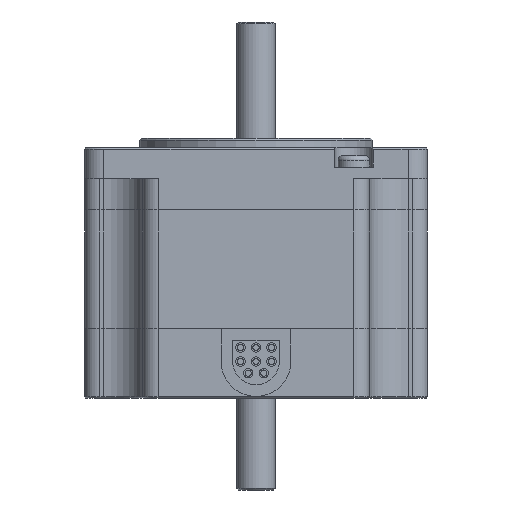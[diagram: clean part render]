
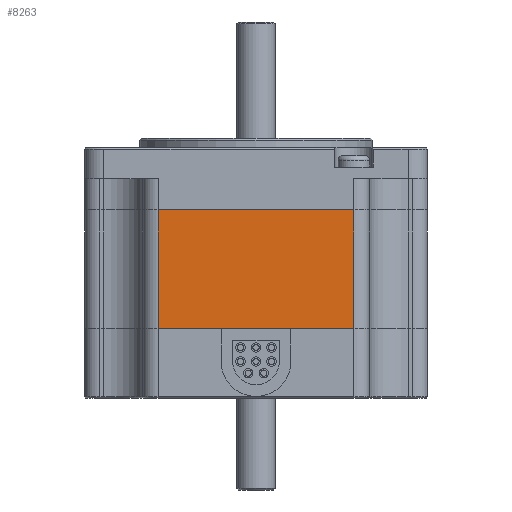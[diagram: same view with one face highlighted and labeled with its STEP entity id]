
A CAD part, front view. The second image highlights one B-rep face of the part: STEP entity #8263.
In plain terms, the highlighted planar face has unit normal (0, -1, 0).
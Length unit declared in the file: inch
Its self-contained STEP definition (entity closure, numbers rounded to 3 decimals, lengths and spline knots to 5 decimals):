
#208 = EDGE_CURVE ( 'NONE', #312, #319, #1610, .T. ) ;
#312 = VERTEX_POINT ( 'NONE', #2262 ) ;
#319 = VERTEX_POINT ( 'NONE', #2307 ) ;
#1609 = CARTESIAN_POINT ( 'NONE',  ( 0.63, -1.104, -0.4 ) ) ;
#1610 = LINE ( 'NONE', #1609, #2043 ) ;
#2027 = DIRECTION ( 'NONE',  ( -1., 0., 0. ) ) ;
#2043 = VECTOR ( 'NONE', #2027, 39.37008 ) ;
#2262 = CARTESIAN_POINT ( 'NONE',  ( 0.63, -1.104, -0.4 ) ) ;
#2307 = CARTESIAN_POINT ( 'NONE',  ( -0.63, -1.104, -0.4 ) ) ;
#8227 = ORIENTED_EDGE ( 'NONE', *, *, #8256, .F. ) ;
#8237 = EDGE_LOOP ( 'NONE', ( #8258, #8227, #8266, #8257 ) ) ;
#8246 = EDGE_CURVE ( 'NONE', #8250, #312, #9680, .T. ) ;
#8250 = VERTEX_POINT ( 'NONE', #9716 ) ;
#8251 = VERTEX_POINT ( 'NONE', #9715 ) ;
#8256 = EDGE_CURVE ( 'NONE', #8251, #319, #9741, .T. ) ;
#8257 = ORIENTED_EDGE ( 'NONE', *, *, #8246, .T. ) ;
#8258 = ORIENTED_EDGE ( 'NONE', *, *, #208, .T. ) ;
#8261 = EDGE_CURVE ( 'NONE', #8250, #8251, #9736, .T. ) ;
#8263 = ADVANCED_FACE ( 'NONE', ( #9748 ), #9747, .F. ) ;
#8266 = ORIENTED_EDGE ( 'NONE', *, *, #8261, .F. ) ;
#9675 = DIRECTION ( 'NONE',  ( 0., 0., 1. ) ) ;
#9676 = VECTOR ( 'NONE', #9675, 39.37008 ) ;
#9677 = CARTESIAN_POINT ( 'NONE',  ( 0.63, -1.104, -1.164 ) ) ;
#9680 = LINE ( 'NONE', #9677, #9676 ) ;
#9705 = VECTOR ( 'NONE', #9733, 39.37008 ) ;
#9715 = CARTESIAN_POINT ( 'NONE',  ( -0.63, -1.104, -1.164 ) ) ;
#9716 = CARTESIAN_POINT ( 'NONE',  ( 0.63, -1.104, -1.164 ) ) ;
#9733 = DIRECTION ( 'NONE',  ( -1., 0., 0. ) ) ;
#9735 = CARTESIAN_POINT ( 'NONE',  ( 0.63, -1.104, -1.164 ) ) ;
#9736 = LINE ( 'NONE', #9735, #9705 ) ;
#9738 = DIRECTION ( 'NONE',  ( 0., 0., 1. ) ) ;
#9739 = VECTOR ( 'NONE', #9738, 39.37008 ) ;
#9740 = CARTESIAN_POINT ( 'NONE',  ( -0.63, -1.104, -1.164 ) ) ;
#9741 = LINE ( 'NONE', #9740, #9739 ) ;
#9747 = PLANE ( 'NONE',  #9766 ) ;
#9748 = FACE_OUTER_BOUND ( 'NONE', #8237, .T. ) ;
#9763 = DIRECTION ( 'NONE',  ( -1., 0., 0. ) ) ;
#9764 = DIRECTION ( 'NONE',  ( 0., 1., 0. ) ) ;
#9765 = CARTESIAN_POINT ( 'NONE',  ( 0.63, -1.104, -1.164 ) ) ;
#9766 = AXIS2_PLACEMENT_3D ( 'NONE', #9765, #9764, #9763 ) ;
